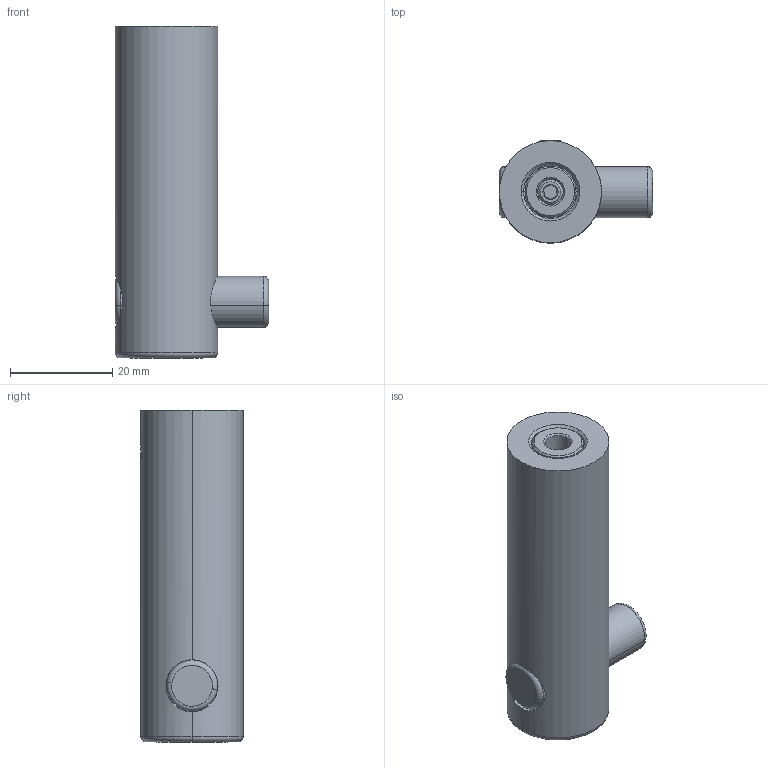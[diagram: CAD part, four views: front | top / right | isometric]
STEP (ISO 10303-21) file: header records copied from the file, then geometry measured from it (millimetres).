
FILE_DESCRIPTION (( 'STEP AP203' ), '1' );
FILE_NAME ('ADP1.STEP', '2025-05-12T13:11:14', ( '' ), ( '' ), 'SwSTEP 2.0', 'SolidWorks 2024', '' );
FILE_SCHEMA (( 'CONFIG_CONTROL_DESIGN' ));
Length unit declared in the file: millimetre
Products named in the file (5): C24.0764.00.0; ADP1; C24.2316.00.0; CORPO APPENDI ABITI MODIFICATO; C11.14.0009
Assembly tree (5 placements, depth 2):
  ADP1
    CORPO APPENDI ABITI MODIFICATO
    C24.0764.00.0
    C11.14.0009  x2
    C24.2316.00.0
Bounding box: 30 x 20 x 65 mm (x, y, z)
Volume: 18687.3 mm3; surface area: 8857.7 mm2
Topology: 5 solids, 5 shells, 100 faces, 209 edges, 119 vertices
Faces by surface type: cone 28, cylinder 24, plane 24, torus 22, sphere 2
Entity records: 3098 total; most frequent: CARTESIAN_POINT 735, DIRECTION 437, ORIENTED_EDGE 346, AXIS2_PLACEMENT_3D 189, EDGE_CURVE 173, CIRCLE 98, VERTEX_POINT 97, EDGE_LOOP 90
